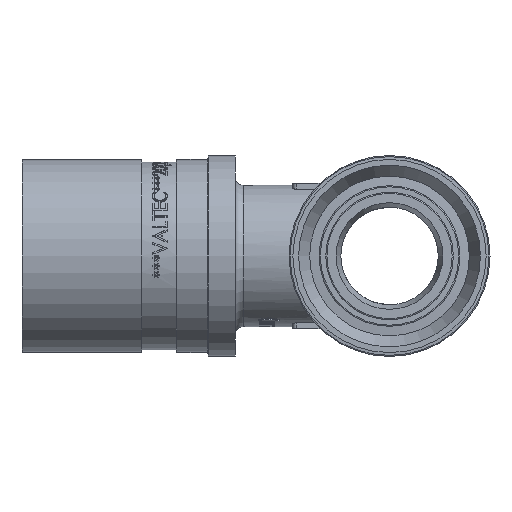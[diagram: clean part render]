
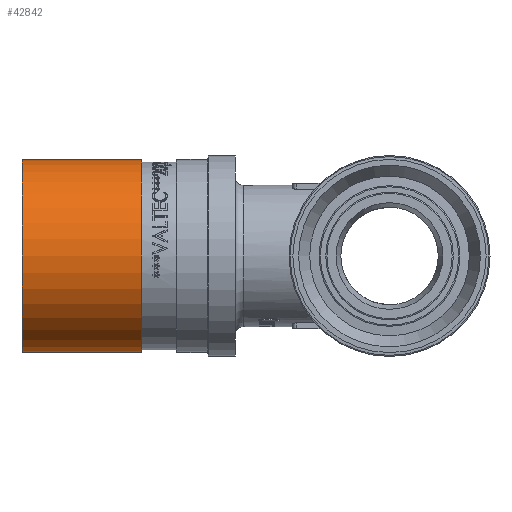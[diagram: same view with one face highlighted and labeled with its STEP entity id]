
A CAD part, left-side view. The second image highlights one B-rep face of the part: STEP entity #42842.
In plain terms, the highlighted cylindrical face has radius 12.5 mm (diameter 25 mm), a full revolution.
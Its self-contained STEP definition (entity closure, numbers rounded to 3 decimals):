
#3541=FACE_OUTER_BOUND('',#6133,.T.);
#6133=EDGE_LOOP('',(#34648,#34649,#34650,#34651,#34652,#34653));
#11748=LINE('',#77350,#14757);
#14757=VECTOR('',#49836,12.5);
#16597=CIRCLE('',#45143,12.5);
#16598=CIRCLE('',#45144,12.5);
#16599=CIRCLE('',#45146,12.5);
#16600=CIRCLE('',#45147,12.5);
#19674=VERTEX_POINT('',#77341);
#19675=VERTEX_POINT('',#77342);
#19676=VERTEX_POINT('',#77346);
#19677=VERTEX_POINT('',#77347);
#25100=EDGE_CURVE('',#19674,#19675,#16597,.T.);
#25101=EDGE_CURVE('',#19675,#19674,#16598,.T.);
#25102=EDGE_CURVE('',#19676,#19677,#16599,.T.);
#25103=EDGE_CURVE('',#19677,#19676,#16600,.T.);
#25104=EDGE_CURVE('',#19677,#19675,#11748,.T.);
#34648=ORIENTED_EDGE('',*,*,#25102,.F.);
#34649=ORIENTED_EDGE('',*,*,#25103,.F.);
#34650=ORIENTED_EDGE('',*,*,#25104,.T.);
#34651=ORIENTED_EDGE('',*,*,#25101,.T.);
#34652=ORIENTED_EDGE('',*,*,#25100,.T.);
#34653=ORIENTED_EDGE('',*,*,#25104,.F.);
#41583=CYLINDRICAL_SURFACE('',#45145,12.5);
#42842=ADVANCED_FACE('',(#3541),#41583,.T.);
#45143=AXIS2_PLACEMENT_3D('',#77343,#49826,#49827);
#45144=AXIS2_PLACEMENT_3D('',#77344,#49828,#49829);
#45145=AXIS2_PLACEMENT_3D('',#77345,#49830,#49831);
#45146=AXIS2_PLACEMENT_3D('',#77348,#49832,#49833);
#45147=AXIS2_PLACEMENT_3D('',#77349,#49834,#49835);
#49826=DIRECTION('center_axis',(0.,-1.,0.));
#49827=DIRECTION('ref_axis',(1.,0.,0.));
#49828=DIRECTION('center_axis',(0.,-1.,0.));
#49829=DIRECTION('ref_axis',(1.,0.,0.));
#49830=DIRECTION('center_axis',(0.,-1.,0.));
#49831=DIRECTION('ref_axis',(1.,0.,0.));
#49832=DIRECTION('center_axis',(0.,-1.,0.));
#49833=DIRECTION('ref_axis',(1.,0.,0.));
#49834=DIRECTION('center_axis',(0.,-1.,0.));
#49835=DIRECTION('ref_axis',(1.,0.,0.));
#49836=DIRECTION('',(0.,1.,0.));
#77341=CARTESIAN_POINT('',(12.5,47.549,0.));
#77342=CARTESIAN_POINT('',(-12.5,47.549,0.));
#77343=CARTESIAN_POINT('Origin',(0.,47.549,
0.));
#77344=CARTESIAN_POINT('Origin',(0.,47.549,
0.));
#77345=CARTESIAN_POINT('Origin',(0.,39.805,
0.));
#77346=CARTESIAN_POINT('',(12.5,32.061,0.));
#77347=CARTESIAN_POINT('',(-12.5,32.061,0.));
#77348=CARTESIAN_POINT('Origin',(0.,32.061,
0.));
#77349=CARTESIAN_POINT('Origin',(0.,32.061,
0.));
#77350=CARTESIAN_POINT('',(-12.5,39.805,0.));
